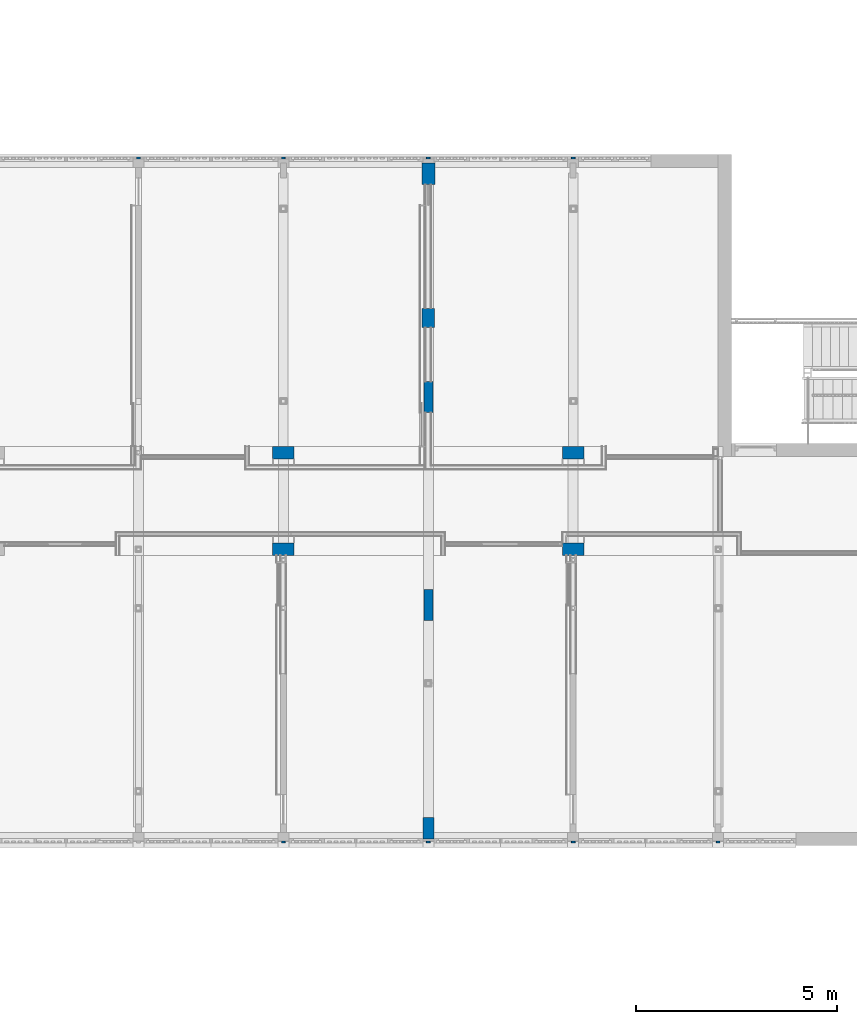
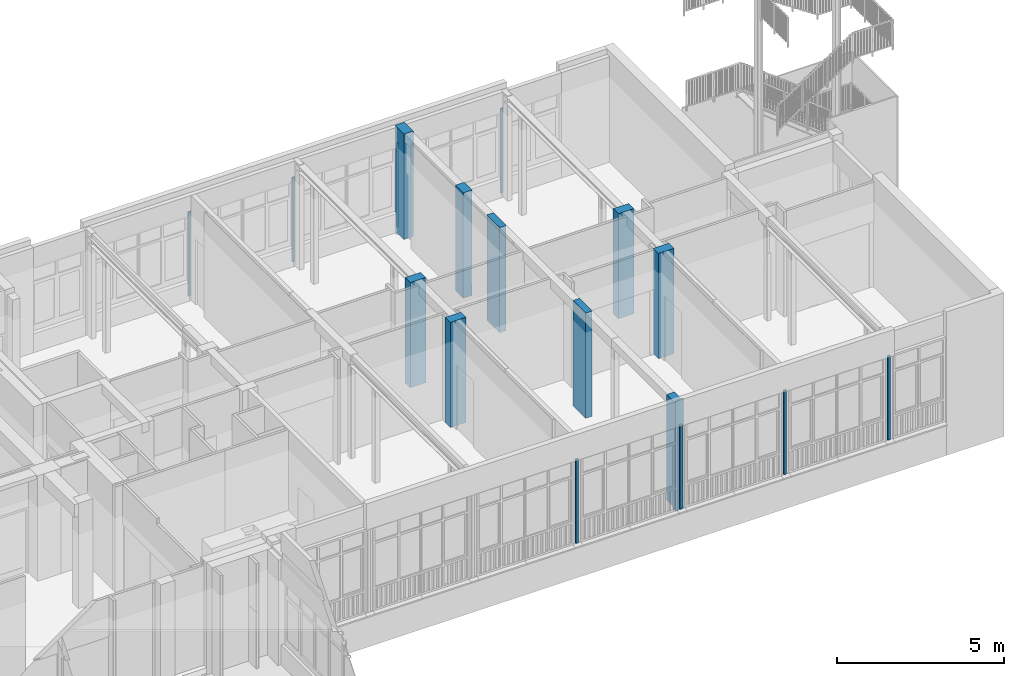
# One storey, part 51 of 135: 17 columns.
"""IFC2X3 building model written with IfcOpenShell, lengths in millimetres."""

from ifc_helpers import new_model, entity, si_unit, converted_unit, derived_unit, money_unit, direction, frame, origin_with_axes, place, context, subcontext, project, spatial, faceted_brep, material, type_object, element, save


model = new_model("IFC2X3")

# Units and contexts
model_context = context("Model", 3, precision=0.01, world=origin_with_axes(), true_north=direction((0.0, 1.0)))
body_context = subcontext(model_context, "Body", "Model", "MODEL_VIEW")
ifc_project = project(units=[si_unit("LENGTHUNIT", "METRE", prefix="MILLI"), si_unit("AREAUNIT", "SQUARE_METRE"), si_unit("VOLUMEUNIT", "CUBIC_METRE"), converted_unit("PLANEANGLEUNIT", "DEGREE", entity("IfcPlaneAngleMeasure", 0.0174532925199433), si_unit("PLANEANGLEUNIT", "RADIAN"), dimensions=[0, 0, 0, 0, 0, 0, 0]), money_unit("EUR"), converted_unit("TIMEUNIT", "Year", entity("IfcTimeMeasure", 31557600.0), si_unit("TIMEUNIT", "SECOND"), dimensions=[0, 0, 1, 0, 0, 0, 0]), si_unit("MASSUNIT", "GRAM", prefix="KILO"), si_unit("THERMODYNAMICTEMPERATUREUNIT", "DEGREE_CELSIUS"), si_unit("LUMINOUSINTENSITYUNIT", "LUMEN"), si_unit("ENERGYUNIT", "JOULE", prefix="MEGA"), derived_unit("THERMALCONDUCTANCEUNIT", [(si_unit("POWERUNIT", "WATT"), 1), (si_unit("LENGTHUNIT", "METRE"), -1), (si_unit("THERMODYNAMICTEMPERATUREUNIT", "KELVIN"), -1)]), derived_unit("SPECIFICHEATCAPACITYUNIT", [(si_unit("ENERGYUNIT", "JOULE"), 1), (si_unit("MASSUNIT", "GRAM", prefix="KILO"), -1), (si_unit("THERMODYNAMICTEMPERATUREUNIT", "KELVIN"), -1)]), derived_unit("MASSDENSITYUNIT", [(si_unit("MASSUNIT", "GRAM", prefix="KILO"), 1), (si_unit("VOLUMEUNIT", "CUBIC_METRE"), -1)])], contexts=[model_context])

# Site, building, storey
site_placement = place(None, origin_with_axes())
site = spatial("IfcSite", under=ifc_project, at=site_placement, Name="Site", CompositionType="ELEMENT")
building_placement = place(site_placement, origin_with_axes())
building = spatial("IfcBuilding", under=site, at=building_placement, Name="Naam gebouw", CompositionType="ELEMENT")
storey_placement = place(building_placement, origin_with_axes())
storey = spatial("IfcBuildingStorey", under=building, at=storey_placement, Name="Begane grond N", CompositionType="ELEMENT", Elevation=0.0)

# Columns
ifc_material_1 = material(Name="ALG - CONSTRUCTIEF KOLOM")
column_type_1 = type_object("IfcColumnType", Name="ALG - CONSTRUCTIEF KOLOM 770 x 225", PredefinedType="COLUMN")
column_1_placement = place(storey_placement, frame((46800.0, 21805.91242510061, -100.0), z_axis=(0.0, 0.0, 1.0), x_axis=(0.0, -1.0, 0.0)))
element("IfcColumn", 1, at=column_1_placement, inside=storey, type_object=column_type_1, material=ifc_material_1, Name="_Kolom-x", ObjectType="COLUMN", context=body_context, shape_type="Brep", body=[
    faceted_brep([(385.0000000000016, 112.4999999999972, 3950.0), (385.0000000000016, 112.4999999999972, 100.0), (-385.0000000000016, 112.4999999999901, 100.0), (-385.0000000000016, 112.4999999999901, 3950.0), (385.0000000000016, -112.4999999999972, 3950.0), (385.0000000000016, -112.4999999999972, 100.0), (-385.0000000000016, -112.5000000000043, 100.0), (-385.0000000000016, -112.5000000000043, 3950.0)], [[[0, 1, 2, 3]], [[4, 5, 1, 0]], [[5, 6, 2, 1]], [[3, 2, 6, 7]], [[4, 0, 3, 7]], [[7, 6, 5, 4]]]),
])
column_2_placement = place(storey_placement, frame((46800.0, 16645.9124251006, -100.0), z_axis=(0.0, 0.0, 1.0), x_axis=(0.0, -1.0, 0.0)))
element("IfcColumn", 2, at=column_2_placement, inside=storey, type_object=column_type_1, material=ifc_material_1, Name="_Kolom-x", ObjectType="COLUMN", context=body_context, shape_type="Brep", body=[
    faceted_brep([(385.0000000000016, 112.4999999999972, 3950.0), (385.0000000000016, 112.4999999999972, 100.0), (-385.0000000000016, 112.4999999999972, 100.0), (-385.0000000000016, 112.4999999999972, 3950.0), (385.0000000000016, -112.4999999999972, 3950.0), (385.0000000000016, -112.4999999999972, 100.0), (-385.0000000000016, -112.4999999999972, 100.0), (-385.0000000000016, -112.4999999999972, 3950.0)], [[[0, 1, 2, 3]], [[4, 5, 1, 0]], [[5, 6, 2, 1]], [[3, 2, 6, 7]], [[4, 0, 3, 7]], [[7, 6, 5, 4]]]),
])
column_type_2 = type_object("IfcColumnType", Name="ALG - CONSTRUCTIEF KOLOM 540 x 310", PredefinedType="COLUMN")
for number, where, z_axis, x_axis, name in (
    (3, (43199.99999999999, 18025.91242510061, -100.0), (0.0, 0.0, 1.0), (1.0, 0.0, 0.0), "_Kolom-x"),
    (4, (50399.99999999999, 18025.91242510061, -100.0), (0.0, 0.0, 1.0), (1.0, 0.0, 0.0), "_Kolom-x"),
    (5, (50399.99999999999, 20425.91242510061, -100.0), (0.0, 0.0, 1.0), (1.0, 0.0, 0.0), "_Kolom-x"),
    (6, (43199.99999999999, 20425.91242510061, -100.0), (0.0, 0.0, 1.0), (1.0, 0.0, 0.0), "_Kolom-x"),
):
    element("IfcColumn", number, at=place(storey_placement, frame(where, z_axis=z_axis, x_axis=x_axis)), inside=storey, type_object=column_type_2, material=ifc_material_1, Name=name, ObjectType="COLUMN", context=body_context, shape_type="Brep", body=[
        faceted_brep([(270.0000000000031, -155.0000000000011, 3950.0), (270.0000000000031, -155.0000000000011, 100.0), (270.0000000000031, 155.0000000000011, 100.0), (270.0000000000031, 155.0000000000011, 3950.0), (-270.0000000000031, -155.0000000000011, 3950.0), (-270.0000000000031, -155.0000000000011, 100.0), (-270.0000000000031, 155.0000000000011, 100.0), (-270.0000000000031, 155.0000000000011, 3950.0)], [[[0, 1, 2, 3]], [[4, 5, 1, 0]], [[5, 6, 2, 1]], [[3, 2, 6, 7]], [[4, 0, 3, 7]], [[7, 6, 5, 4]]]),
    ])
column_type_3 = type_object("IfcColumnType", Name="ALG - CONSTRUCTIEF KOLOM 540 x 330", PredefinedType="COLUMN")
column_3_placement = place(storey_placement, frame((46807.30221844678, 27355.91242510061, -99.99999999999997), z_axis=(0.0, 0.0, 1.0), x_axis=(0.0, -1.0, 0.0)))
element("IfcColumn", 7, at=column_3_placement, inside=storey, type_object=column_type_3, material=ifc_material_1, Name="_Kolom-x", ObjectType="COLUMN", context=body_context, shape_type="Brep", body=[
    faceted_brep([(269.9999999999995, 164.9999999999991, 99.99999999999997), (-150.0000000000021, 164.9999999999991, 99.99999999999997), (-150.0000000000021, 164.9999999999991, 0.0), (-269.9999999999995, 164.9999999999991, 0.0), (-269.9999999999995, 164.9999999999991, 3950.0), (269.9999999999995, 164.9999999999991, 3950.0), (-150.0000000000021, -164.9999999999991, 99.99999999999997), (269.9999999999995, -164.9999999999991, 99.99999999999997), (-150.0000000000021, -164.9999999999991, 0.0), (-269.9999999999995, -164.9999999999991, 0.0), (-269.9999999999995, -164.9999999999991, 3950.0), (269.9999999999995, -164.9999999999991, 3950.0)], [[[0, 1, 2, 3, 4, 5]], [[6, 1, 0, 7]], [[8, 2, 1, 6]], [[3, 2, 8, 9]], [[9, 10, 4, 3]], [[11, 5, 4, 10]], [[11, 7, 0, 5]], [[8, 6, 7, 11, 10, 9]]]),
])
column_type_4 = type_object("IfcColumnType", Name="ALG - CONSTRUCTIEF KOLOM 475 x 310", PredefinedType="COLUMN")
column_4_placement = place(storey_placement, frame((46799.69044981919, 23769.98273941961, -100.0), z_axis=(0.0, 0.0, 1.0), x_axis=(-0.003287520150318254, -0.9999945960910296, 0.0)))
element("IfcColumn", 8, at=column_4_placement, inside=storey, type_object=column_type_4, material=ifc_material_1, Name="_Kolom-x", ObjectType="COLUMN", context=body_context, shape_type="Brep", body=[
    faceted_brep([(237.5000000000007, 155.0000000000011, 470.4671649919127), (237.5000000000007, 155.0000000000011, 100.0), (-237.5000000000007, 155.0000000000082, 100.0), (-237.5000000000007, 155.0000000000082, 470.4671649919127), (237.5000000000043, -154.999999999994, 3950.0), (237.5000000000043, -154.999999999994, 100.0), (237.5000000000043, 141.5911013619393, 470.4671649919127), (237.5000000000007, 141.5926704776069, 512.0330309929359), (237.5000000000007, 155.0000000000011, 512.713118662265), (237.5000000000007, 155.0000000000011, 521.8014331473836), (237.5000000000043, 141.5911013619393, 521.0820651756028), (237.5000000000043, 141.5911013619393, 1150.196895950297), (237.5000000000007, 123.5910040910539, 1150.196895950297), (237.5000000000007, 130.7170168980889, 1165.979572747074), (237.5000000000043, 142.8776789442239, 1178.308088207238), (237.5000000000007, 155.0000000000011, 1183.982748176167), (237.5000000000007, 155.0000000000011, 3950.0), (-237.5000000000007, -154.999999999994, 100.0), (-237.5000000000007, -154.999999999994, 3950.0), (-237.5000000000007, 155.0000000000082, 3950.0), (-237.5000000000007, 155.0000000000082, 1184.71374996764), (-237.5000000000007, 141.3160984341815, 1178.308088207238), (-237.5000000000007, 129.1554363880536, 1165.979572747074), (-237.5000000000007, 122.0294235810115, 1150.196895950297), (-237.4999999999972, 140.0295208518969, 1150.196895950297), (-237.4999999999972, 140.0295208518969, 521.0820651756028), (-237.5000000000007, 155.0000000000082, 521.8852096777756), (-237.5000000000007, 155.0000000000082, 512.7923299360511), (-237.5000000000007, 140.0310899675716, 512.0330309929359), (-237.4999999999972, 140.0295208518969, 470.4671649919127)], [[[0, 1, 2, 3]], [[4, 5, 1, 0, 6, 7, 8, 9, 10, 11, 12, 13, 14, 15, 16]], [[5, 17, 2, 1]], [[3, 2, 17, 18, 19, 20, 21, 22, 23, 24, 25, 26, 27, 28, 29]], [[29, 6, 0, 3]], [[18, 17, 5, 4]], [[7, 6, 29, 28]], [[8, 7, 28, 27]], [[26, 9, 8, 27]], [[25, 10, 9, 26]], [[11, 10, 25, 24]], [[12, 11, 24, 23]], [[13, 12, 23, 22]], [[14, 13, 22, 21]], [[15, 14, 21, 20]], [[20, 19, 16, 15]], [[4, 16, 19, 18]]]),
])
column_type_5 = type_object("IfcColumnType", Name="ALG - CONSTRUCTIEF KOLOM 540 x 275", PredefinedType="COLUMN")
column_5_placement = place(storey_placement, frame((46800.93305276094, 11095.93601524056, -99.99999999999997), z_axis=(0.0, 0.0, 1.0), x_axis=(0.00345180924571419, 0.9999940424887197, 0.0)))
element("IfcColumn", 9, at=column_5_placement, inside=storey, type_object=column_type_5, material=ifc_material_1, Name="_Kolom-x", ObjectType="COLUMN", context=body_context, shape_type="Brep", body=[
    faceted_brep([(-270.0000000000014, -137.5009571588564, 0.0), (-104.5495859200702, -137.5009571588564, 0.0), (-104.5495859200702, -137.5009571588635, 99.99999999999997), (270.0000000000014, -137.5009571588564, 99.99999999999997), (270.0000000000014, -137.5009571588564, 3950.0), (-250.5504557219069, -137.5009571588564, 3950.0), (-250.5504557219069, -137.5009571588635, 4050.000000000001), (-270.0000000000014, -137.5009571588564, 4050.000000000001), (-270.0000000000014, 137.5009571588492, 0.0), (-105.4988457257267, 137.5009571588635, 0.0), (-105.4988457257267, 137.5009571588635, 99.99999999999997), (269.9999999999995, 137.5009571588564, 99.99999999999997), (269.9999999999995, 137.5009571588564, 3950.0), (-251.4997155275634, 137.5009571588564, 3950.0), (-251.4997155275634, 137.5009571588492, 4050.000000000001), (-270.0000000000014, 137.5009571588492, 4050.000000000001)], [[[0, 1, 2, 3, 4, 5, 6, 7]], [[8, 9, 1, 0]], [[10, 2, 1, 9]], [[10, 11, 3, 2]], [[4, 3, 11, 12]], [[13, 5, 4, 12]], [[13, 14, 6, 5]], [[7, 6, 14, 15]], [[7, 15, 8, 0]], [[11, 10, 9, 8, 15, 14, 13, 12]]]),
])
ifc_material_2 = material(Name="Metaal - Staal C")
column_type_6 = type_object("IfcColumnType", Name="Metaal - Staal C 90 x 44", PredefinedType="COLUMN")
for number, where, z_axis, x_axis, name in (
    (10, (43199.99999999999, 10752.91242510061, 0.0), (0.0, 0.0, 1.0), (1.0, 0.0, 0.0), "_Kolom-x"),
    (11, (46799.99999999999, 10752.91242510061, 0.0), (0.0, 0.0, 1.0), (1.0, 0.0, 0.0), "_Kolom-x"),
    (12, (50399.99999999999, 10752.9124251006, 0.0), (0.0, 0.0, 1.0), (1.0, 0.0, 0.0), "_Kolom-x"),
    (13, (53999.99999999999, 10752.9124251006, 0.0), (0.0, 0.0, 1.0), (1.0, 0.0, 0.0), "_Kolom-x"),
):
    element("IfcColumn", number, at=place(storey_placement, frame(where, z_axis=z_axis, x_axis=x_axis)), inside=storey, type_object=column_type_6, material=ifc_material_2, Name=name, ObjectType="COLUMN", context=body_context, shape_type="Brep", body=[
        faceted_brep([(-45.00000000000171, -22.00000000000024, 3090.000000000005), (-45.00000000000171, -22.00000000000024, 0.0), (45.00000000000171, -22.00000000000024, 0.0), (45.00000000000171, -22.00000000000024, 3090.000000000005), (-45.00000000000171, 22.00000000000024, 3090.000000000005), (-45.00000000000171, 22.00000000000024, 0.0), (45.00000000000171, 22.00000000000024, 0.0), (45.00000000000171, 22.00000000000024, 3090.000000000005)], [[[0, 1, 2, 3]], [[4, 5, 1, 0]], [[2, 1, 5, 6]], [[3, 2, 6, 7]], [[4, 0, 3, 7]], [[7, 6, 5, 4]]]),
    ])
for number, where, z_axis, x_axis, name in (
    (14, (50399.99999999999, 27743.91242510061, 0.0), (0.0, 0.0, 1.0), (-1.0, 0.0, 0.0), "_Kolom-x"),
    (15, (43199.99999999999, 27743.91242510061, 0.0), (0.0, 0.0, 1.0), (-1.0, 0.0, 0.0), "_Kolom-x"),
    (16, (39599.99999999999, 27743.91242510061, 0.0), (0.0, 0.0, 1.0), (-1.0, 0.0, 0.0), "_Kolom-x"),
    (17, (46799.99999999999, 27743.91242510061, 0.0), (0.0, 0.0, 1.0), (-1.0, 0.0, 0.0), "_Kolom-x"),
):
    element("IfcColumn", number, at=place(storey_placement, frame(where, z_axis=z_axis, x_axis=x_axis)), inside=storey, type_object=column_type_6, material=ifc_material_2, Name=name, ObjectType="COLUMN", context=body_context, shape_type="Brep", body=[
        faceted_brep([(-45.00000000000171, -21.99999999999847, 3090.000000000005), (-45.00000000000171, -21.99999999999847, 0.0), (45.00000000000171, -21.99999999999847, 0.0), (45.00000000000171, -21.99999999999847, 3090.000000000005), (-45.00000000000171, 21.99999999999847, 3090.000000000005), (-45.00000000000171, 21.99999999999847, 0.0), (45.00000000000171, 21.99999999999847, 0.0), (45.00000000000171, 21.99999999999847, 3090.000000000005)], [[[0, 1, 2, 3]], [[4, 5, 1, 0]], [[2, 1, 5, 6]], [[3, 2, 6, 7]], [[4, 0, 3, 7]], [[7, 6, 5, 4]]]),
    ])

save(model, "model.ifc")
